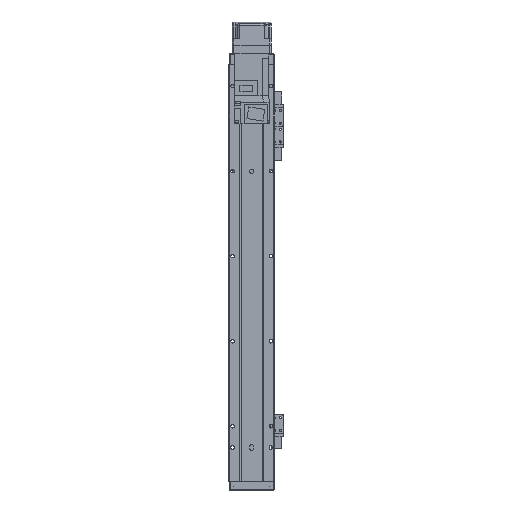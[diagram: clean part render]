
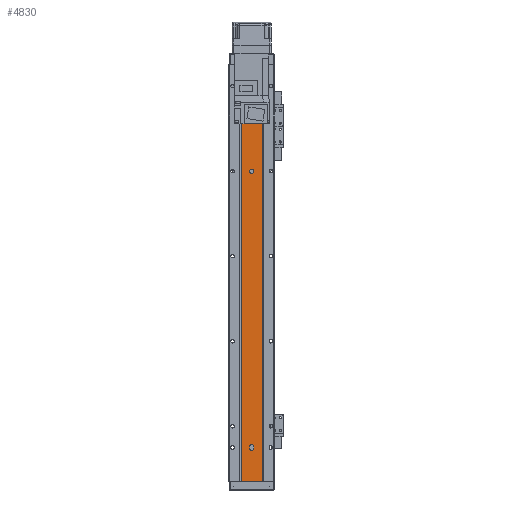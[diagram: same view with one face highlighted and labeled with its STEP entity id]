
A CAD part, front view. The second image highlights one B-rep face of the part: STEP entity #4830.
In plain terms, the highlighted planar face has unit normal (0, -1, 0).
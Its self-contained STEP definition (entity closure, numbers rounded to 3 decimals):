
#81 = EDGE_CURVE ( 'NONE', #11586, #14405, #1451, .T. ) ;
#151 = VECTOR ( 'NONE', #29637, 1000. ) ;
#480 = ORIENTED_EDGE ( 'NONE', *, *, #23401, .T. ) ;
#765 = CARTESIAN_POINT ( 'NONE',  ( 0., 1.5, -125. ) ) ;
#845 = FACE_OUTER_BOUND ( 'NONE', #24531, .T. ) ;
#1232 = DIRECTION ( 'NONE',  ( 1., 0., 0. ) ) ;
#1451 = CIRCLE ( 'NONE', #27493, 2.5 ) ;
#1580 = VERTEX_POINT ( 'NONE', #31779 ) ;
#1595 = DIRECTION ( 'NONE',  ( 0., 0., -1. ) ) ;
#1728 = CARTESIAN_POINT ( 'NONE',  ( -2.5, 1.5, -490. ) ) ;
#2225 = AXIS2_PLACEMENT_3D ( 'NONE', #31918, #34767, #17040 ) ;
#2953 = DIRECTION ( 'NONE',  ( 0., -1., 0. ) ) ;
#3336 = ORIENTED_EDGE ( 'NONE', *, *, #17579, .F. ) ;
#3445 = DIRECTION ( 'NONE',  ( 1., 0., 0. ) ) ;
#3728 = ORIENTED_EDGE ( 'NONE', *, *, #30317, .F. ) ;
#3849 = VERTEX_POINT ( 'NONE', #28133 ) ;
#4830 = ADVANCED_FACE ( 'NONE', ( #31508, #25525, #20881, #845 ), #27157, .T. ) ;
#4839 = AXIS2_PLACEMENT_3D ( 'NONE', #19083, #33564, #1232 ) ;
#5460 = CARTESIAN_POINT ( 'NONE',  ( 12.293, 1.5, -490. ) ) ;
#5707 = LINE ( 'NONE', #13365, #36365 ) ;
#6225 = DIRECTION ( 'NONE',  ( 1., 0., 0. ) ) ;
#8259 = CARTESIAN_POINT ( 'NONE',  ( 2.5, 1.5, -451. ) ) ;
#8662 = VECTOR ( 'NONE', #30153, 1000. ) ;
#8861 = CIRCLE ( 'NONE', #31584, 2.5 ) ;
#9040 = EDGE_CURVE ( 'NONE', #3849, #37402, #38228, .T. ) ;
#9569 = DIRECTION ( 'NONE',  ( 1., 0., 0. ) ) ;
#9612 = VERTEX_POINT ( 'NONE', #8259 ) ;
#9743 = EDGE_CURVE ( 'NONE', #1580, #9612, #27503, .T. ) ;
#11586 = VERTEX_POINT ( 'NONE', #30348 ) ;
#12357 = CARTESIAN_POINT ( 'NONE',  ( 0., 1.5, -25. ) ) ;
#12413 = CARTESIAN_POINT ( 'NONE',  ( 12.293, 1.5, 0. ) ) ;
#12432 = LINE ( 'NONE', #5460, #18975 ) ;
#13075 = CARTESIAN_POINT ( 'NONE',  ( 12.293, 1.5, 0. ) ) ;
#13365 = CARTESIAN_POINT ( 'NONE',  ( -12.293, 1.5, -490. ) ) ;
#14405 = VERTEX_POINT ( 'NONE', #38424 ) ;
#14878 = ORIENTED_EDGE ( 'NONE', *, *, #27375, .F. ) ;
#15166 = CARTESIAN_POINT ( 'NONE',  ( 0., 1.5, -451. ) ) ;
#16630 = VERTEX_POINT ( 'NONE', #13075 ) ;
#17040 = DIRECTION ( 'NONE',  ( 1., 0., 0. ) ) ;
#17579 = EDGE_CURVE ( 'NONE', #28492, #37512, #30129, .T. ) ;
#18321 = CARTESIAN_POINT ( 'NONE',  ( 12.293, 1.5, -490. ) ) ;
#18764 = VECTOR ( 'NONE', #9569, 1000. ) ;
#18968 = CARTESIAN_POINT ( 'NONE',  ( -2.5, 1.5, -449. ) ) ;
#18975 = VECTOR ( 'NONE', #26658, 1000. ) ;
#19083 = CARTESIAN_POINT ( 'NONE',  ( 0., 1.5, -125. ) ) ;
#19381 = CARTESIAN_POINT ( 'NONE',  ( 0., 1.5, -25. ) ) ;
#19686 = CARTESIAN_POINT ( 'NONE',  ( 12.293, 1.5, -490. ) ) ;
#20200 = ORIENTED_EDGE ( 'NONE', *, *, #35117, .T. ) ;
#20353 = EDGE_LOOP ( 'NONE', ( #25455, #22212, #29415, #35083 ) ) ;
#20881 = FACE_BOUND ( 'NONE', #26184, .T. ) ;
#21424 = ORIENTED_EDGE ( 'NONE', *, *, #24590, .F. ) ;
#22107 = DIRECTION ( 'NONE',  ( 0., -1., 0. ) ) ;
#22212 = ORIENTED_EDGE ( 'NONE', *, *, #29205, .F. ) ;
#23401 = EDGE_CURVE ( 'NONE', #34846, #16630, #12432, .T. ) ;
#23797 = CARTESIAN_POINT ( 'NONE',  ( 2.5, 1.5, -490. ) ) ;
#24531 = EDGE_LOOP ( 'NONE', ( #21424, #27200, #20200, #480 ) ) ;
#24575 = DIRECTION ( 'NONE',  ( 1., 0., 0. ) ) ;
#24590 = EDGE_CURVE ( 'NONE', #29593, #16630, #32628, .T. ) ;
#24991 = VECTOR ( 'NONE', #1595, 1000. ) ;
#25455 = ORIENTED_EDGE ( 'NONE', *, *, #9743, .F. ) ;
#25525 = FACE_BOUND ( 'NONE', #25830, .T. ) ;
#25830 = EDGE_LOOP ( 'NONE', ( #29909, #3728 ) ) ;
#26172 = CIRCLE ( 'NONE', #4839, 2.5 ) ;
#26184 = EDGE_LOOP ( 'NONE', ( #14878, #3336 ) ) ;
#26658 = DIRECTION ( 'NONE',  ( 0., 0., 1. ) ) ;
#27157 = PLANE ( 'NONE',  #28467 ) ;
#27200 = ORIENTED_EDGE ( 'NONE', *, *, #35324, .F. ) ;
#27375 = EDGE_CURVE ( 'NONE', #37512, #28492, #8861, .T. ) ;
#27493 = AXIS2_PLACEMENT_3D ( 'NONE', #765, #36435, #24575 ) ;
#27503 = CIRCLE ( 'NONE', #33828, 2.5 ) ;
#28133 = CARTESIAN_POINT ( 'NONE',  ( 2.5, 1.5, -449. ) ) ;
#28467 = AXIS2_PLACEMENT_3D ( 'NONE', #18321, #29987, #3445 ) ;
#28492 = VERTEX_POINT ( 'NONE', #29983 ) ;
#29205 = EDGE_CURVE ( 'NONE', #37402, #1580, #34700, .T. ) ;
#29415 = ORIENTED_EDGE ( 'NONE', *, *, #9040, .F. ) ;
#29580 = CARTESIAN_POINT ( 'NONE',  ( -12.293, 1.5, -490. ) ) ;
#29593 = VERTEX_POINT ( 'NONE', #36081 ) ;
#29637 = DIRECTION ( 'NONE',  ( 0., 0., 1. ) ) ;
#29684 = DIRECTION ( 'NONE',  ( 0., -1., 0. ) ) ;
#29909 = ORIENTED_EDGE ( 'NONE', *, *, #81, .F. ) ;
#29983 = CARTESIAN_POINT ( 'NONE',  ( -2.5, 1.5, -25. ) ) ;
#29987 = DIRECTION ( 'NONE',  ( 0., -1., 0. ) ) ;
#30129 = CIRCLE ( 'NONE', #37465, 2.5 ) ;
#30153 = DIRECTION ( 'NONE',  ( 1., 0., 0. ) ) ;
#30317 = EDGE_CURVE ( 'NONE', #14405, #11586, #26172, .T. ) ;
#30348 = CARTESIAN_POINT ( 'NONE',  ( 2.5, 1.5, -125. ) ) ;
#31370 = DIRECTION ( 'NONE',  ( 0., 0., 1. ) ) ;
#31498 = CARTESIAN_POINT ( 'NONE',  ( 2.5, 1.5, -25. ) ) ;
#31508 = FACE_BOUND ( 'NONE', #20353, .T. ) ;
#31584 = AXIS2_PLACEMENT_3D ( 'NONE', #19381, #22107, #34104 ) ;
#31779 = CARTESIAN_POINT ( 'NONE',  ( -2.5, 1.5, -451. ) ) ;
#31918 = CARTESIAN_POINT ( 'NONE',  ( 0., 1.5, -449. ) ) ;
#32322 = EDGE_CURVE ( 'NONE', #9612, #3849, #34026, .T. ) ;
#32628 = LINE ( 'NONE', #12413, #18764 ) ;
#33564 = DIRECTION ( 'NONE',  ( 0., -1., 0. ) ) ;
#33828 = AXIS2_PLACEMENT_3D ( 'NONE', #15166, #29684, #35592 ) ;
#34026 = LINE ( 'NONE', #23797, #151 ) ;
#34104 = DIRECTION ( 'NONE',  ( 1., 0., 0. ) ) ;
#34170 = LINE ( 'NONE', #35927, #8662 ) ;
#34700 = LINE ( 'NONE', #1728, #24991 ) ;
#34767 = DIRECTION ( 'NONE',  ( 0., -1., 0. ) ) ;
#34846 = VERTEX_POINT ( 'NONE', #19686 ) ;
#35083 = ORIENTED_EDGE ( 'NONE', *, *, #32322, .F. ) ;
#35117 = EDGE_CURVE ( 'NONE', #37746, #34846, #34170, .T. ) ;
#35324 = EDGE_CURVE ( 'NONE', #37746, #29593, #5707, .T. ) ;
#35592 = DIRECTION ( 'NONE',  ( 1., 0., 0. ) ) ;
#35927 = CARTESIAN_POINT ( 'NONE',  ( 12.293, 1.5, -490. ) ) ;
#36081 = CARTESIAN_POINT ( 'NONE',  ( -12.293, 1.5, 0. ) ) ;
#36365 = VECTOR ( 'NONE', #31370, 1000. ) ;
#36435 = DIRECTION ( 'NONE',  ( 0., -1., 0. ) ) ;
#37402 = VERTEX_POINT ( 'NONE', #18968 ) ;
#37465 = AXIS2_PLACEMENT_3D ( 'NONE', #12357, #2953, #6225 ) ;
#37512 = VERTEX_POINT ( 'NONE', #31498 ) ;
#37746 = VERTEX_POINT ( 'NONE', #29580 ) ;
#38228 = CIRCLE ( 'NONE', #2225, 2.5 ) ;
#38424 = CARTESIAN_POINT ( 'NONE',  ( -2.5, 1.5, -125. ) ) ;
